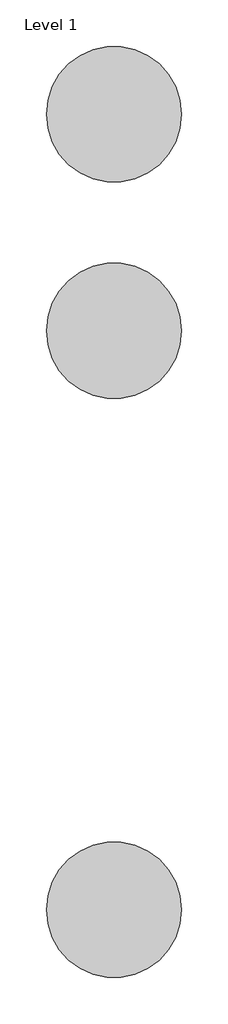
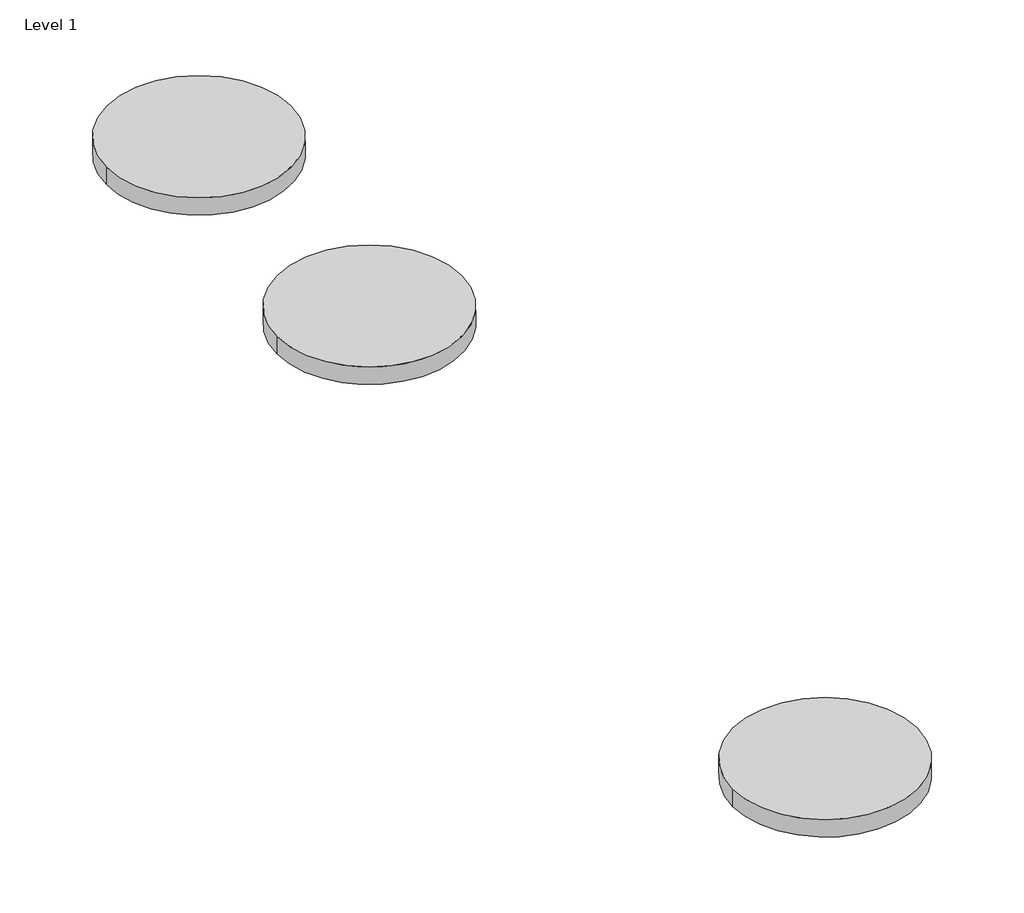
# One storey, incomplete: 3 proxies.
"""IFC4 building model written with IfcOpenShell, lengths in millimetres."""

from ifc_helpers import new_model, si_unit, origin, place, context, project, spatial, transform, mapped, element, save
from components import materialmodel_materialmodel_ac00f72a

model = new_model("IFC4")

# Units and contexts
model_context = context("Model", 3, world=origin())
ifc_project = project(units=[si_unit("LENGTHUNIT", "METRE", prefix="MILLI")], contexts=[model_context])

# Site, building, storey
site = spatial("IfcSite", under=ifc_project)
building = spatial("IfcBuilding", under=site)
storey = spatial("IfcBuildingStorey", under=building, Name="Level 1", Elevation=0.0)

# Proxies
placement = place(None, origin())
materialmodel_materialmodel_shape = materialmodel_materialmodel_ac00f72a(model_context)
element("IfcBuildingElementProxy", 1, Name="MaterialModel : MaterialModel", ObjectType="MaterialModel : MaterialModel", at=placement, inside=storey, context=model_context, shape_type="MappedRepresentation", body=[
    mapped(materialmodel_materialmodel_shape, transform((-10325.5786717, 6968.4265438, 0.0), x_axis=(1.0, 0.0, 0.0), y_axis=(0.0, 1.0, 0.0), z_axis=(0.0, 0.0, 1.0))),
])
element("IfcBuildingElementProxy", 2, Name="MaterialModel : MaterialModel", ObjectType="MaterialModel : MaterialModel", at=placement, inside=storey, context=model_context, shape_type="MappedRepresentation", body=[
    mapped(materialmodel_materialmodel_shape, transform((-10325.5786717, 6648.4265438, 0.0), x_axis=(1.0, 0.0, 0.0), y_axis=(0.0, 1.0, 0.0), z_axis=(0.0, 0.0, 1.0))),
])
element("IfcBuildingElementProxy", 3, Name="MaterialModel : MaterialModel", ObjectType="MaterialModel : MaterialModel", at=placement, inside=storey, context=model_context, shape_type="MappedRepresentation", body=[
    mapped(materialmodel_materialmodel_shape, transform((-10325.5786717, 5792.9627728, 0.0), x_axis=(1.0, 0.0, 0.0), y_axis=(0.0, 1.0, 0.0), z_axis=(0.0, 0.0, 1.0))),
])

save(model, "model.ifc")
